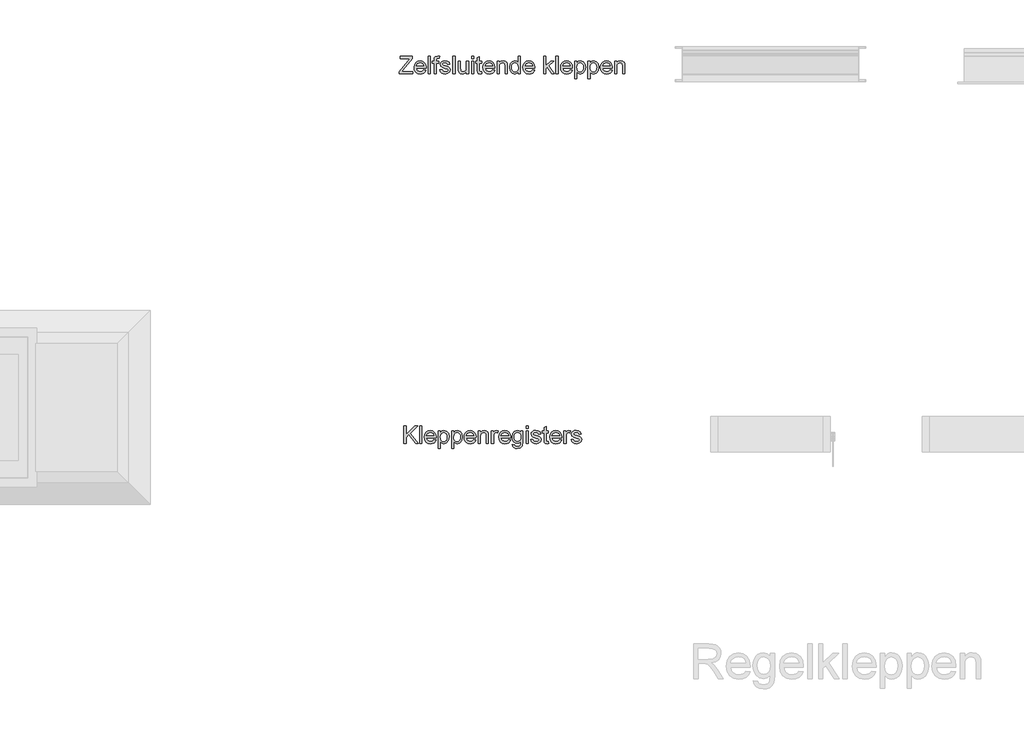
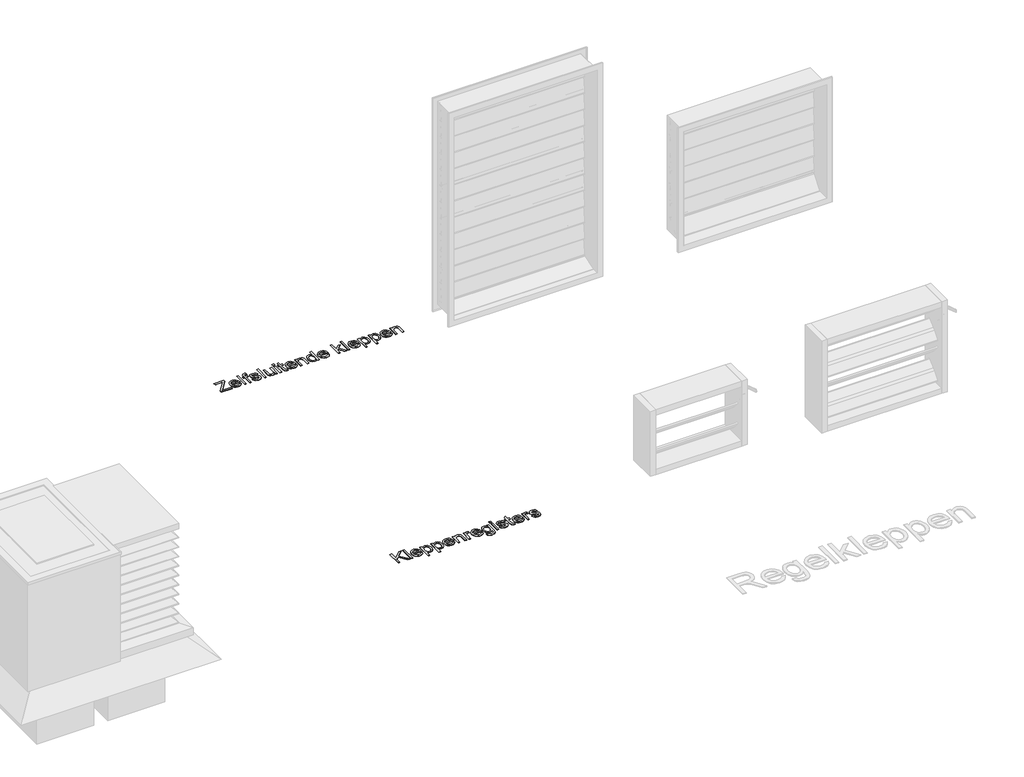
# One storey, part 8 of 10: 2 proxies.
"""IFC4 building model written with IfcOpenShell, lengths in millimetres."""

from ifc_helpers import new_model, si_unit, origin, origin_with_axes, place, context, project, spatial, polyline, outline, extrude, element, save

model = new_model("IFC4")

# Units and contexts
model_context = context("Model", 3, world=origin())
ifc_project = project(units=[si_unit("LENGTHUNIT", "METRE", prefix="MILLI")], contexts=[model_context])

# Site, building, storey
site = spatial("IfcSite", under=ifc_project)
building = spatial("IfcBuilding", under=site)
storey = spatial("IfcBuildingStorey", under=building, Name="Ventilatieroosters", Elevation=0.0)

# Proxies
placement = place(None, origin())
element("IfcBuildingElementProxy", 1, Name="100mm", ObjectType="100mm", at=placement, inside=storey, context=model_context, shape_type="SweptSolid", body=[
    extrude(outline(polyline([(10431.258602, -15084.0867652), (10431.258602, -14985.6252268), (10443.5662943, -14985.6252268), (10443.5662943, -15033.8223421), (10494.0470635, -14985.6252268), (10511.258602, -14985.6252268), (10468.8787943, -15026.105996), (10512.7970635, -15084.0867652), (10497.7489866, -15084.0867652), (10460.1528328, -15034.4233037), (10443.5662943, -15050.2406114), (10443.5662943, -15084.0867652), (10431.258602, -15084.0867652)])), origin_with_axes(), (0.0, 0.0, 1.0), 2.0),
    extrude(outline(polyline([(10520.4893712, -15084.0867652), (10520.4893712, -14985.6252268), (10532.7970635, -14985.6252268), (10532.7970635, -15084.0867652), (10520.4893712, -15084.0867652)])), origin_with_axes(), (0.0, 0.0, 1.0), 2.0),
    extrude(outline(polyline([(10601.883602, -15062.5483037), (10613.9509097, -15064.0867652), (10609.6029529, -15073.1793133), (10602.664852, -15079.9761883), (10593.2928568, -15084.2129671), (10581.6432174, -15085.6252268), (10567.2021116, -15083.1883277), (10556.0903328, -15075.8776306), (10549.0049962, -15064.167895), (10546.6432174, -15048.5338806), (10549.0290347, -15032.3740248), (10556.1864866, -15020.2886883), (10567.1480251, -15012.7526306), (10580.946102, -15010.2406114), (10594.3144914, -15012.746621), (10604.9965828, -15020.2646498), (10612.0007895, -15032.3259479), (10614.3355251, -15048.4617652), (10614.2634097, -15051.7790729), (10558.9509097, -15051.7790729), (10561.0813183, -15060.9918133), (10566.0302366, -15067.7646498), (10581.883602, -15073.3175344), (10593.9509097, -15070.7454191), (10601.883602, -15062.5483037)]), holes=[polyline([(10558.9509097, -15039.4713806), (10602.0278328, -15039.4713806), (10597.0999481, -15028.3175344), (10589.9244674, -15023.9906114), (10580.8980251, -15022.5483037), (10565.7417751, -15027.1516691), (10558.9509097, -15039.4713806)])]), origin_with_axes(), (0.0, 0.0, 1.0), 2.0),
    extrude(outline(polyline([(10626.6432174, -15111.7790729), (10626.6432174, -15011.7790729), (10638.9509097, -15011.7790729), (10638.9509097, -15023.8463806), (10647.4605251, -15013.6420537), (10658.9509097, -15010.2406114), (10674.5518712, -15015.0002268), (10684.7441789, -15028.4136883), (10688.1816789, -15047.3800344), (10684.2994674, -15067.3199383), (10673.0254289, -15080.9016691), (10657.4605251, -15085.6252268), (10646.7513904, -15082.4641691), (10638.9509097, -15074.4713806), (10638.9509097, -15111.7790729), (10626.6432174, -15111.7790729)]), holes=[polyline([(10638.9509097, -15048.5098421), (10640.2820395, -15059.543496), (10644.2754289, -15067.2598421), (10650.1678568, -15071.8031114), (10657.196102, -15073.3175344), (10664.3385299, -15071.7490248), (10670.3811981, -15067.043496), (10674.5007895, -15059.0446979), (10675.8739866, -15047.5963806), (10674.5338424, -15036.6228229), (10670.5134097, -15028.7983037), (10664.6299962, -15024.1108037), (10657.7009097, -15022.5483037), (10650.7447799, -15024.2099623), (10644.6360058, -15029.1949383), (10640.3721837, -15037.3469816), (10638.9509097, -15048.5098421)])]), origin_with_axes(), (0.0, 0.0, 1.0), 2.0),
    extrude(outline(polyline([(10702.0278328, -15111.7790729), (10702.0278328, -15011.7790729), (10714.3355251, -15011.7790729), (10714.3355251, -15023.8463806), (10722.8451404, -15013.6420537), (10734.3355251, -15010.2406114), (10749.9364866, -15015.0002268), (10760.1287943, -15028.4136883), (10763.5662943, -15047.3800344), (10759.6840828, -15067.3199383), (10748.4100443, -15080.9016691), (10732.8451404, -15085.6252268), (10722.1360058, -15082.4641691), (10714.3355251, -15074.4713806), (10714.3355251, -15111.7790729), (10702.0278328, -15111.7790729)]), holes=[polyline([(10714.3355251, -15048.5098421), (10715.6666549, -15059.543496), (10719.6600443, -15067.2598421), (10725.5524722, -15071.8031114), (10732.5807174, -15073.3175344), (10739.7231453, -15071.7490248), (10745.7658135, -15067.043496), (10749.8854049, -15059.0446979), (10751.258602, -15047.5963806), (10749.9184578, -15036.6228229), (10745.8980251, -15028.7983037), (10740.0146116, -15024.1108037), (10733.0855251, -15022.5483037), (10726.1293953, -15024.2099623), (10720.0206212, -15029.1949383), (10715.7567991, -15037.3469816), (10714.3355251, -15048.5098421)])]), origin_with_axes(), (0.0, 0.0, 1.0), 2.0),
    extrude(outline(polyline([(10828.0374481, -15062.5483037), (10840.1047558, -15064.0867652), (10835.7567991, -15073.1793133), (10828.8186981, -15079.9761883), (10819.4467029, -15084.2129671), (10807.7970635, -15085.6252268), (10793.3559578, -15083.1883277), (10782.2441789, -15075.8776306), (10775.1588424, -15064.167895), (10772.7970635, -15048.5338806), (10775.1828808, -15032.3740248), (10782.3403328, -15020.2886883), (10793.3018712, -15012.7526306), (10807.0999481, -15010.2406114), (10820.4683376, -15012.746621), (10831.1504289, -15020.2646498), (10838.1546356, -15032.3259479), (10840.4893712, -15048.4617652), (10840.4172558, -15051.7790729), (10785.1047558, -15051.7790729), (10787.2351645, -15060.9918133), (10792.1840828, -15067.7646498), (10808.0374481, -15073.3175344), (10820.1047558, -15070.7454191), (10828.0374481, -15062.5483037)]), holes=[polyline([(10785.1047558, -15039.4713806), (10828.1816789, -15039.4713806), (10823.2537943, -15028.3175344), (10816.0783135, -15023.9906114), (10807.0518712, -15022.5483037), (10791.8956212, -15027.1516691), (10785.1047558, -15039.4713806)])]), origin_with_axes(), (0.0, 0.0, 1.0), 2.0),
    extrude(outline(polyline([(10852.7970635, -15084.0867652), (10852.7970635, -15011.7790729), (10865.1047558, -15011.7790729), (10865.1047558, -15021.8752268), (10874.5158135, -15013.1492652), (10887.3643712, -15010.2406114), (10898.9869674, -15012.5843614), (10906.9196597, -15018.7382075), (10910.6095635, -15027.7886883), (10911.258602, -15039.6877268), (10911.258602, -15084.0867652), (10898.9509097, -15084.0867652), (10898.9509097, -15041.3463806), (10897.5326404, -15030.4569575), (10892.5206212, -15024.699746), (10884.071102, -15022.5483037), (10870.7177366, -15027.3800344), (10866.508001, -15034.3812364), (10865.1047558, -15045.7213806), (10865.1047558, -15084.0867652), (10852.7970635, -15084.0867652)])), origin_with_axes(), (0.0, 0.0, 1.0), 2.0),
    extrude(outline(polyline([(10928.1816789, -15084.0867652), (10928.1816789, -15011.7790729), (10938.9509097, -15011.7790729), (10938.9509097, -15022.4761883), (10946.5951404, -15012.6204191), (10954.2874481, -15010.2406114), (10966.6432174, -15014.0386883), (10962.5326404, -15025.0723421), (10953.8787943, -15022.5483037), (10946.9196597, -15024.9761883), (10942.4845635, -15031.7069575), (10940.4893712, -15046.0819575), (10940.4893712, -15084.0867652), (10928.1816789, -15084.0867652)])), origin_with_axes(), (0.0, 0.0, 1.0), 2.0),
    extrude(outline(polyline([(11024.9605251, -15062.5483037), (11037.0278328, -15064.0867652), (11032.679876, -15073.1793133), (11025.7417751, -15079.9761883), (11016.3697799, -15084.2129671), (11004.7201404, -15085.6252268), (10990.2790347, -15083.1883277), (10979.1672558, -15075.8776306), (10972.0819193, -15064.167895), (10969.7201404, -15048.5338806), (10972.1059578, -15032.3740248), (10979.2634097, -15020.2886883), (10990.2249481, -15012.7526306), (11004.0230251, -15010.2406114), (11017.3914145, -15012.746621), (11028.0735058, -15020.2646498), (11035.0777126, -15032.3259479), (11037.4124481, -15048.4617652), (11037.3403328, -15051.7790729), (10982.0278328, -15051.7790729), (10984.1582414, -15060.9918133), (10989.1071597, -15067.7646498), (11004.9605251, -15073.3175344), (11017.0278328, -15070.7454191), (11024.9605251, -15062.5483037)]), holes=[polyline([(10982.0278328, -15039.4713806), (11025.1047558, -15039.4713806), (11020.1768712, -15028.3175344), (11013.0013904, -15023.9906114), (11003.9749481, -15022.5483037), (10988.8186981, -15027.1516691), (10982.0278328, -15039.4713806)])]), origin_with_axes(), (0.0, 0.0, 1.0), 2.0),
    extrude(outline(polyline([(11046.6432174, -15090.2406114), (11058.9509097, -15091.7790729), (11062.9412943, -15098.2694575), (11074.8884097, -15101.0098421), (11087.4845635, -15097.9088806), (11093.4941789, -15089.2069575), (11094.3355251, -15074.855996), (11085.6696597, -15081.7790729), (11075.1047558, -15084.0867652), (11062.4154529, -15081.4004671), (11052.9533135, -15073.3415729), (11047.0668953, -15061.5266691), (11045.1047558, -15047.5723421), (11048.6263904, -15028.4978229), (11058.8186981, -15015.0002268), (11074.5037943, -15010.2406114), (11085.4833616, -15012.9329191), (11094.3355251, -15021.0098421), (11094.3355251, -15011.7790729), (11106.6432174, -15011.7790729), (11106.6432174, -15074.2069575), (11103.2778328, -15098.1132075), (11092.6167751, -15109.230996), (11074.6480251, -15113.3175344), (11063.1967029, -15111.8782316), (11054.1792751, -15107.5603229), (11048.3950203, -15100.3517893), (11046.6432174, -15090.2406114)]), holes=[polyline([(11057.4124481, -15046.730996), (11058.7255491, -15058.0200585), (11062.664852, -15065.7814768), (11068.5873279, -15070.2796739), (11075.8499481, -15071.7790729), (11083.0584818, -15070.2886883), (11089.0110058, -15065.8175344), (11093.0043953, -15058.1552748), (11094.3355251, -15047.0915729), (11092.9653328, -15036.4215008), (11088.8547558, -15028.7382075), (11082.8150924, -15024.0957796), (11075.6576404, -15022.5483037), (11068.6293953, -15024.0717412), (11062.7369674, -15028.6420537), (11058.7435779, -15036.2111643), (11057.4124481, -15046.730996)])]), origin_with_axes(), (0.0, 0.0, 1.0), 2.0),
    extrude(outline(polyline([(11125.1047558, -15084.0867652), (11125.1047558, -15011.7790729), (11137.4124481, -15011.7790729), (11137.4124481, -15084.0867652), (11125.1047558, -15084.0867652)])), origin_with_axes(), (0.0, 0.0, 1.0), 2.0),
    extrude(outline(polyline([(11125.1047558, -14997.9329191), (11125.1047558, -14985.6252268), (11137.4124481, -14985.6252268), (11137.4124481, -14997.9329191), (11125.1047558, -14997.9329191)])), origin_with_axes(), (0.0, 0.0, 1.0), 2.0),
    extrude(outline(polyline([(11151.258602, -15062.5483037), (11163.5662943, -15061.0098421), (11169.2634097, -15070.1444575), (11182.3162943, -15073.3175344), (11194.8643712, -15070.4088806), (11198.9509097, -15063.5819575), (11194.8403328, -15058.0531114), (11182.1720635, -15054.543496), (11163.6384097, -15048.5218614), (11155.5494674, -15041.4906114), (11152.7970635, -15031.5627268), (11155.008602, -15022.3920537), (11161.0422558, -15015.3848421), (11168.8667751, -15011.7430152), (11179.4557174, -15010.2406114), (11194.4316789, -15012.6564768), (11203.9509097, -15019.1949383), (11208.1816789, -15030.2406114), (11195.8739866, -15031.7790729), (11191.2465828, -15024.9882075), (11180.4172558, -15022.5483037), (11168.6384097, -15024.8800344), (11165.1047558, -15030.3127268), (11166.571102, -15033.8944575), (11171.1624481, -15036.6108037), (11181.7634097, -15039.230996), (11199.8283135, -15045.0242652), (11208.2177366, -15051.5867652), (11211.258602, -15062.2838806), (11207.6888904, -15074.0627268), (11197.3884097, -15082.6083998), (11182.1480251, -15085.6252268), (11169.7381693, -15084.1708998), (11160.6816789, -15079.8079191), (11154.6360058, -15072.5843614), (11151.258602, -15062.5483037)])), origin_with_axes(), (0.0, 0.0, 1.0), 2.0),
    extrude(outline(polyline([(11251.258602, -15073.8223421), (11252.7970635, -15084.4473421), (11243.5903328, -15085.6252268), (11233.2778328, -15083.5819575), (11228.133602, -15078.2213806), (11226.6432174, -15064.2550344), (11226.6432174, -15024.0867652), (11217.4124481, -15024.0867652), (11217.4124481, -15011.7790729), (11226.6432174, -15011.7790729), (11226.6432174, -14994.2069575), (11238.9509097, -14986.9713806), (11238.9509097, -15011.7790729), (11251.258602, -15011.7790729), (11251.258602, -15024.0867652), (11238.9509097, -15024.0867652), (11238.9509097, -15063.8944575), (11239.5999481, -15070.2406114), (11241.7033135, -15072.4882075), (11245.8980251, -15073.3175344), (11251.258602, -15073.8223421)])), origin_with_axes(), (0.0, 0.0, 1.0), 2.0),
    extrude(outline(polyline([(11314.1912943, -15062.5483037), (11326.258602, -15064.0867652), (11321.9106453, -15073.1793133), (11314.9725443, -15079.9761883), (11305.6005491, -15084.2129671), (11293.9509097, -15085.6252268), (11279.5098039, -15083.1883277), (11268.3980251, -15075.8776306), (11261.3126885, -15064.167895), (11258.9509097, -15048.5338806), (11261.336727, -15032.3740248), (11268.4941789, -15020.2886883), (11279.4557174, -15012.7526306), (11293.2537943, -15010.2406114), (11306.6221837, -15012.746621), (11317.3042751, -15020.2646498), (11324.3084818, -15032.3259479), (11326.6432174, -15048.4617652), (11326.571102, -15051.7790729), (11271.258602, -15051.7790729), (11273.3890106, -15060.9918133), (11278.3379289, -15067.7646498), (11294.1912943, -15073.3175344), (11306.258602, -15070.7454191), (11314.1912943, -15062.5483037)]), holes=[polyline([(11271.258602, -15039.4713806), (11314.3355251, -15039.4713806), (11309.4076404, -15028.3175344), (11302.2321597, -15023.9906114), (11293.2057174, -15022.5483037), (11278.0494674, -15027.1516691), (11271.258602, -15039.4713806)])]), origin_with_axes(), (0.0, 0.0, 1.0), 2.0),
    extrude(outline(polyline([(11338.9509097, -15084.0867652), (11338.9509097, -15011.7790729), (11349.7201404, -15011.7790729), (11349.7201404, -15022.4761883), (11357.3643712, -15012.6204191), (11365.0566789, -15010.2406114), (11377.4124481, -15014.0386883), (11373.3018712, -15025.0723421), (11364.6480251, -15022.5483037), (11357.6888904, -15024.9761883), (11353.2537943, -15031.7069575), (11351.258602, -15046.0819575), (11351.258602, -15084.0867652), (11338.9509097, -15084.0867652)])), origin_with_axes(), (0.0, 0.0, 1.0), 2.0),
    extrude(outline(polyline([(11380.4893712, -15062.5483037), (11392.7970635, -15061.0098421), (11398.4941789, -15070.1444575), (11411.5470635, -15073.3175344), (11424.0951404, -15070.4088806), (11428.1816789, -15063.5819575), (11424.071102, -15058.0531114), (11411.4028328, -15054.543496), (11392.8691789, -15048.5218614), (11384.7802366, -15041.4906114), (11382.0278328, -15031.5627268), (11384.2393712, -15022.3920537), (11390.2730251, -15015.3848421), (11398.0975443, -15011.7430152), (11408.6864866, -15010.2406114), (11423.6624481, -15012.6564768), (11433.1816789, -15019.1949383), (11437.4124481, -15030.2406114), (11425.1047558, -15031.7790729), (11420.477352, -15024.9882075), (11409.6480251, -15022.5483037), (11397.8691789, -15024.8800344), (11394.3355251, -15030.3127268), (11395.8018712, -15033.8944575), (11400.3932174, -15036.6108037), (11410.9941789, -15039.230996), (11429.0590828, -15045.0242652), (11437.4485058, -15051.5867652), (11440.4893712, -15062.2838806), (11436.9196597, -15074.0627268), (11426.6191789, -15082.6083998), (11411.3787943, -15085.6252268), (11398.9689385, -15084.1708998), (11389.9124481, -15079.8079191), (11383.8667751, -15072.5843614), (11380.4893712, -15062.5483037)])), origin_with_axes(), (0.0, 0.0, 1.0), 2.0),
])
element("IfcBuildingElementProxy", 2, Name="100mm", ObjectType="100mm", at=placement, inside=storey, context=model_context, shape_type="SweptSolid", body=[
    extrude(outline(polyline([(10404.6603337, -12985.5251354), (10404.6603337, -12972.7607123), (10455.0209106, -12911.1020585), (10464.5882183, -12899.3712892), (10410.8141798, -12899.3712892), (10410.8141798, -12887.0635969), (10480.044949, -12887.0635969), (10480.044949, -12899.3712892), (10424.9247567, -12966.8472508), (10419.732449, -12973.2174431), (10481.5834106, -12973.2174431), (10481.5834106, -12985.5251354), (10404.6603337, -12985.5251354)])), origin_with_axes(), (0.0, 0.0, 1.0), 2.0),
    extrude(outline(polyline([(10544.5161029, -12963.9866739), (10556.5834106, -12965.5251354), (10552.2354539, -12974.6176835), (10545.2973529, -12981.4145585), (10535.9253577, -12985.6513373), (10524.2757183, -12987.0635969), (10509.8346125, -12984.6266979), (10498.7228337, -12977.3160008), (10491.6374971, -12965.6062652), (10489.2757183, -12949.9722508), (10491.6615356, -12933.812395), (10498.8189875, -12921.7270585), (10509.780526, -12914.1910008), (10523.5786029, -12911.6789815), (10536.9469923, -12914.1849912), (10547.6290837, -12921.70302), (10554.6332904, -12933.7643181), (10556.968026, -12949.9001354), (10556.8959106, -12953.2174431), (10501.5834106, -12953.2174431), (10503.7138192, -12962.4301835), (10508.6627375, -12969.20302), (10524.5161029, -12974.7559046), (10536.5834106, -12972.1837892), (10544.5161029, -12963.9866739)]), holes=[polyline([(10501.5834106, -12940.9097508), (10544.6603337, -12940.9097508), (10539.732449, -12929.7559046), (10532.5569683, -12925.4289815), (10523.530526, -12923.9866739), (10508.374276, -12928.5900392), (10501.5834106, -12940.9097508)])]), origin_with_axes(), (0.0, 0.0, 1.0), 2.0),
    extrude(outline(polyline([(10569.2757183, -12985.5251354), (10569.2757183, -12887.0635969), (10581.5834106, -12887.0635969), (10581.5834106, -12985.5251354), (10569.2757183, -12985.5251354)])), origin_with_axes(), (0.0, 0.0, 1.0), 2.0),
    extrude(outline(polyline([(10603.1218721, -12985.5251354), (10603.1218721, -12925.5251354), (10592.3526414, -12925.5251354), (10592.3526414, -12913.2174431), (10603.1218721, -12913.2174431), (10603.1218721, -12905.9337892), (10604.419949, -12895.6693662), (10610.718026, -12888.3376354), (10623.1218721, -12885.5251354), (10634.3478337, -12886.8712892), (10632.544949, -12898.4097508), (10625.4536029, -12897.8328277), (10617.701199, -12899.8760969), (10615.4295644, -12907.4962892), (10615.4295644, -12913.2174431), (10629.2757183, -12913.2174431), (10629.2757183, -12925.5251354), (10615.4295644, -12925.5251354), (10615.4295644, -12985.5251354), (10603.1218721, -12985.5251354)])), origin_with_axes(), (0.0, 0.0, 1.0), 2.0),
    extrude(outline(polyline([(10635.4295644, -12963.9866739), (10647.7372567, -12962.4482123), (10653.4343721, -12971.5828277), (10666.4872567, -12974.7559046), (10679.0353337, -12971.8472508), (10683.1218721, -12965.0203277), (10679.0112952, -12959.4914815), (10666.343026, -12955.9818662), (10647.8093721, -12949.9602315), (10639.7204298, -12942.9289815), (10636.968026, -12933.0010969), (10639.1795644, -12923.8304239), (10645.2132183, -12916.8232123), (10653.0377375, -12913.1813854), (10663.6266798, -12911.6789815), (10678.6026414, -12914.0948469), (10688.1218721, -12920.6333085), (10692.3526414, -12931.6789815), (10680.044949, -12933.2174431), (10675.4175452, -12926.4265777), (10664.5882183, -12923.9866739), (10652.8093721, -12926.3184046), (10649.2757183, -12931.7510969), (10650.7420644, -12935.3328277), (10655.3334106, -12938.0491739), (10665.9343721, -12940.6693662), (10683.999276, -12946.4626354), (10692.388699, -12953.0251354), (10695.4295644, -12963.7222508), (10691.8598529, -12975.5010969), (10681.5593721, -12984.04677), (10666.3189875, -12987.0635969), (10653.9091317, -12985.60927), (10644.8526414, -12981.2462892), (10638.8069683, -12974.0227315), (10635.4295644, -12963.9866739)])), origin_with_axes(), (0.0, 0.0, 1.0), 2.0),
    extrude(outline(polyline([(10709.2757183, -12985.5251354), (10709.2757183, -12887.0635969), (10721.5834106, -12887.0635969), (10721.5834106, -12985.5251354), (10709.2757183, -12985.5251354)])), origin_with_axes(), (0.0, 0.0, 1.0), 2.0),
    extrude(outline(polyline([(10786.1987952, -12985.5251354), (10786.1987952, -12973.0972508), (10776.5593721, -12983.5720104), (10763.9872567, -12987.0635969), (10752.4127375, -12984.6116739), (10744.4319683, -12978.4578277), (10740.7661029, -12969.3953277), (10740.044949, -12957.95302), (10740.044949, -12913.2174431), (10752.3526414, -12913.2174431), (10752.3526414, -12952.1597508), (10753.0978337, -12964.7078277), (10757.9656221, -12972.0756162), (10767.1362952, -12974.7559046), (10777.4127375, -12972.01552), (10784.2036029, -12964.5515777), (10786.1987952, -12950.8376354), (10786.1987952, -12913.2174431), (10798.5064875, -12913.2174431), (10798.5064875, -12985.5251354), (10786.1987952, -12985.5251354)])), origin_with_axes(), (0.0, 0.0, 1.0), 2.0),
    extrude(outline(polyline([(10815.4295644, -12985.5251354), (10815.4295644, -12913.2174431), (10827.7372567, -12913.2174431), (10827.7372567, -12985.5251354), (10815.4295644, -12985.5251354)])), origin_with_axes(), (0.0, 0.0, 1.0), 2.0),
    extrude(outline(polyline([(10815.4295644, -12899.3712892), (10815.4295644, -12887.0635969), (10827.7372567, -12887.0635969), (10827.7372567, -12899.3712892), (10815.4295644, -12899.3712892)])), origin_with_axes(), (0.0, 0.0, 1.0), 2.0),
    extrude(outline(polyline([(10872.3526414, -12975.2607123), (10873.8911029, -12985.8857123), (10864.6843721, -12987.0635969), (10854.3718721, -12985.0203277), (10849.2276414, -12979.6597508), (10847.7372567, -12965.6934046), (10847.7372567, -12925.5251354), (10838.5064875, -12925.5251354), (10838.5064875, -12913.2174431), (10847.7372567, -12913.2174431), (10847.7372567, -12895.6453277), (10860.044949, -12888.4097508), (10860.044949, -12913.2174431), (10872.3526414, -12913.2174431), (10872.3526414, -12925.5251354), (10860.044949, -12925.5251354), (10860.044949, -12965.3328277), (10860.6939875, -12971.6789815), (10862.7973529, -12973.9265777), (10866.9920644, -12974.7559046), (10872.3526414, -12975.2607123)])), origin_with_axes(), (0.0, 0.0, 1.0), 2.0),
    extrude(outline(polyline([(10935.2853337, -12963.9866739), (10947.3526414, -12965.5251354), (10943.0046846, -12974.6176835), (10936.0665837, -12981.4145585), (10926.6945885, -12985.6513373), (10915.044949, -12987.0635969), (10900.6038433, -12984.6266979), (10889.4920644, -12977.3160008), (10882.4067279, -12965.6062652), (10880.044949, -12949.9722508), (10882.4307664, -12933.812395), (10889.5882183, -12921.7270585), (10900.5497567, -12914.1910008), (10914.3478337, -12911.6789815), (10927.7162231, -12914.1849912), (10938.3983144, -12921.70302), (10945.4025212, -12933.7643181), (10947.7372567, -12949.9001354), (10947.6651414, -12953.2174431), (10892.3526414, -12953.2174431), (10894.48305, -12962.4301835), (10899.4319683, -12969.20302), (10915.2853337, -12974.7559046), (10927.3526414, -12972.1837892), (10935.2853337, -12963.9866739)]), holes=[polyline([(10892.3526414, -12940.9097508), (10935.4295644, -12940.9097508), (10930.5016798, -12929.7559046), (10923.326199, -12925.4289815), (10914.2997567, -12923.9866739), (10899.1435067, -12928.5900392), (10892.3526414, -12940.9097508)])]), origin_with_axes(), (0.0, 0.0, 1.0), 2.0),
    extrude(outline(polyline([(10960.044949, -12985.5251354), (10960.044949, -12913.2174431), (10972.3526414, -12913.2174431), (10972.3526414, -12923.3135969), (10981.763699, -12914.5876354), (10994.6122567, -12911.6789815), (11006.2348529, -12914.0227315), (11014.1675452, -12920.1765777), (11017.857449, -12929.2270585), (11018.5064875, -12941.1260969), (11018.5064875, -12985.5251354), (11006.1987952, -12985.5251354), (11006.1987952, -12942.7847508), (11004.780526, -12931.8953277), (10999.7685067, -12926.1381162), (10991.3189875, -12923.9866739), (10977.9656221, -12928.8184046), (10973.7558865, -12935.8196065), (10972.3526414, -12947.1597508), (10972.3526414, -12985.5251354), (10960.044949, -12985.5251354)])), origin_with_axes(), (0.0, 0.0, 1.0), 2.0),
    extrude(outline(polyline([(11080.044949, -12985.5251354), (11080.044949, -12973.9145585), (11071.9019202, -12983.7763373), (11060.6459106, -12987.0635969), (11045.405526, -12982.3039815), (11034.6362952, -12969.0227315), (11030.8141798, -12949.4434046), (11034.3358144, -12929.8520585), (11044.888699, -12916.3664815), (11060.5978337, -12911.6789815), (11071.9439875, -12915.0323469), (11080.044949, -12923.7462892), (11080.044949, -12887.0635969), (11092.3526414, -12887.0635969), (11092.3526414, -12985.5251354), (11080.044949, -12985.5251354)]), holes=[polyline([(11043.1218721, -12949.3953277), (11044.5100933, -12960.5281402), (11048.6747567, -12968.4458085), (11054.7264394, -12973.1783806), (11061.7757183, -12974.7559046), (11068.8219923, -12973.250496), (11074.7204298, -12968.73427), (11078.7138192, -12961.1230921), (11080.044949, -12950.3328277), (11078.6897808, -12938.5359527), (11074.624276, -12930.3568662), (11068.5755981, -12925.5792219), (11061.2709106, -12923.9866739), (11054.1495164, -12925.516121), (11048.3141798, -12930.1044623), (11044.419949, -12937.9860729), (11043.1218721, -12949.3953277)])]), origin_with_axes(), (0.0, 0.0, 1.0), 2.0),
    extrude(outline(polyline([(11161.4391798, -12963.9866739), (11173.5064875, -12965.5251354), (11169.1585308, -12974.6176835), (11162.2204298, -12981.4145585), (11152.8484346, -12985.6513373), (11141.1987952, -12987.0635969), (11126.7576894, -12984.6266979), (11115.6459106, -12977.3160008), (11108.560574, -12965.6062652), (11106.1987952, -12949.9722508), (11108.5846125, -12933.812395), (11115.7420644, -12921.7270585), (11126.7036029, -12914.1910008), (11140.5016798, -12911.6789815), (11153.8700692, -12914.1849912), (11164.5521606, -12921.70302), (11171.5563673, -12933.7643181), (11173.8911029, -12949.9001354), (11173.8189875, -12953.2174431), (11118.5064875, -12953.2174431), (11120.6368962, -12962.4301835), (11125.5858144, -12969.20302), (11141.4391798, -12974.7559046), (11153.5064875, -12972.1837892), (11161.4391798, -12963.9866739)]), holes=[polyline([(11118.5064875, -12940.9097508), (11161.5834106, -12940.9097508), (11156.655526, -12929.7559046), (11149.4800452, -12925.4289815), (11140.4536029, -12923.9866739), (11125.2973529, -12928.5900392), (11118.5064875, -12940.9097508)])]), origin_with_axes(), (0.0, 0.0, 1.0), 2.0),
    extrude(outline(polyline([(11224.6603337, -12985.5251354), (11224.6603337, -12887.0635969), (11236.968026, -12887.0635969), (11236.968026, -12939.9722508), (11264.5641798, -12913.2174431), (11281.5834106, -12913.2174431), (11253.6507183, -12940.3087892), (11283.1218721, -12985.5251354), (11268.7468721, -12985.5251354), (11244.8286029, -12948.8664815), (11236.968026, -12956.4866739), (11236.968026, -12985.5251354), (11224.6603337, -12985.5251354)])), origin_with_axes(), (0.0, 0.0, 1.0), 2.0),
    extrude(outline(polyline([(11293.8911029, -12985.5251354), (11293.8911029, -12887.0635969), (11306.1987952, -12887.0635969), (11306.1987952, -12985.5251354), (11293.8911029, -12985.5251354)])), origin_with_axes(), (0.0, 0.0, 1.0), 2.0),
    extrude(outline(polyline([(11375.2853337, -12963.9866739), (11387.3526414, -12965.5251354), (11383.0046846, -12974.6176835), (11376.0665837, -12981.4145585), (11366.6945885, -12985.6513373), (11355.044949, -12987.0635969), (11340.6038433, -12984.6266979), (11329.4920644, -12977.3160008), (11322.4067279, -12965.6062652), (11320.044949, -12949.9722508), (11322.4307664, -12933.812395), (11329.5882183, -12921.7270585), (11340.5497567, -12914.1910008), (11354.3478337, -12911.6789815), (11367.7162231, -12914.1849912), (11378.3983144, -12921.70302), (11385.4025212, -12933.7643181), (11387.7372567, -12949.9001354), (11387.6651414, -12953.2174431), (11332.3526414, -12953.2174431), (11334.48305, -12962.4301835), (11339.4319683, -12969.20302), (11355.2853337, -12974.7559046), (11367.3526414, -12972.1837892), (11375.2853337, -12963.9866739)]), holes=[polyline([(11332.3526414, -12940.9097508), (11375.4295644, -12940.9097508), (11370.5016798, -12929.7559046), (11363.326199, -12925.4289815), (11354.2997567, -12923.9866739), (11339.1435067, -12928.5900392), (11332.3526414, -12940.9097508)])]), origin_with_axes(), (0.0, 0.0, 1.0), 2.0),
    extrude(outline(polyline([(11400.044949, -13013.2174431), (11400.044949, -12913.2174431), (11412.3526414, -12913.2174431), (11412.3526414, -12925.2847508), (11420.8622567, -12915.0804239), (11432.3526414, -12911.6789815), (11447.9536029, -12916.4385969), (11458.1459106, -12929.8520585), (11461.5834106, -12948.8184046), (11457.701199, -12968.7583085), (11446.4271606, -12982.3400392), (11430.8622567, -12987.0635969), (11420.1531221, -12983.9025392), (11412.3526414, -12975.9097508), (11412.3526414, -13013.2174431), (11400.044949, -13013.2174431)]), holes=[polyline([(11412.3526414, -12949.9482123), (11413.6837712, -12960.9818662), (11417.6771606, -12968.6982123), (11423.5695885, -12973.2414815), (11430.5978337, -12974.7559046), (11437.7402615, -12973.187395), (11443.7829298, -12968.4818662), (11447.9025212, -12960.4830681), (11449.2757183, -12949.0347508), (11447.935574, -12938.0611931), (11443.9151414, -12930.2366739), (11438.0317279, -12925.5491739), (11431.1026414, -12923.9866739), (11424.1465115, -12925.6483325), (11418.0377375, -12930.6333085), (11413.7739154, -12938.7853517), (11412.3526414, -12949.9482123)])]), origin_with_axes(), (0.0, 0.0, 1.0), 2.0),
    extrude(outline(polyline([(11475.4295644, -13013.2174431), (11475.4295644, -12913.2174431), (11487.7372567, -12913.2174431), (11487.7372567, -12925.2847508), (11496.2468721, -12915.0804239), (11507.7372567, -12911.6789815), (11523.3382183, -12916.4385969), (11533.530526, -12929.8520585), (11536.968026, -12948.8184046), (11533.0858144, -12968.7583085), (11521.811776, -12982.3400392), (11506.2468721, -12987.0635969), (11495.5377375, -12983.9025392), (11487.7372567, -12975.9097508), (11487.7372567, -13013.2174431), (11475.4295644, -13013.2174431)]), holes=[polyline([(11487.7372567, -12949.9482123), (11489.0683865, -12960.9818662), (11493.061776, -12968.6982123), (11498.9542039, -12973.2414815), (11505.982449, -12974.7559046), (11513.1248769, -12973.187395), (11519.1675452, -12968.4818662), (11523.2871365, -12960.4830681), (11524.6603337, -12949.0347508), (11523.3201894, -12938.0611931), (11519.2997567, -12930.2366739), (11513.4163433, -12925.5491739), (11506.4872567, -12923.9866739), (11499.5311269, -12925.6483325), (11493.4223529, -12930.6333085), (11489.1585308, -12938.7853517), (11487.7372567, -12949.9482123)])]), origin_with_axes(), (0.0, 0.0, 1.0), 2.0),
    extrude(outline(polyline([(11601.4391798, -12963.9866739), (11613.5064875, -12965.5251354), (11609.1585308, -12974.6176835), (11602.2204298, -12981.4145585), (11592.8484346, -12985.6513373), (11581.1987952, -12987.0635969), (11566.7576894, -12984.6266979), (11555.6459106, -12977.3160008), (11548.560574, -12965.6062652), (11546.1987952, -12949.9722508), (11548.5846125, -12933.812395), (11555.7420644, -12921.7270585), (11566.7036029, -12914.1910008), (11580.5016798, -12911.6789815), (11593.8700692, -12914.1849912), (11604.5521606, -12921.70302), (11611.5563673, -12933.7643181), (11613.8911029, -12949.9001354), (11613.8189875, -12953.2174431), (11558.5064875, -12953.2174431), (11560.6368962, -12962.4301835), (11565.5858144, -12969.20302), (11581.4391798, -12974.7559046), (11593.5064875, -12972.1837892), (11601.4391798, -12963.9866739)]), holes=[polyline([(11558.5064875, -12940.9097508), (11601.5834106, -12940.9097508), (11596.655526, -12929.7559046), (11589.4800452, -12925.4289815), (11580.4536029, -12923.9866739), (11565.2973529, -12928.5900392), (11558.5064875, -12940.9097508)])]), origin_with_axes(), (0.0, 0.0, 1.0), 2.0),
    extrude(outline(polyline([(11626.1987952, -12985.5251354), (11626.1987952, -12913.2174431), (11638.5064875, -12913.2174431), (11638.5064875, -12923.3135969), (11647.9175452, -12914.5876354), (11660.7661029, -12911.6789815), (11672.388699, -12914.0227315), (11680.3213914, -12920.1765777), (11684.0112952, -12929.2270585), (11684.6603337, -12941.1260969), (11684.6603337, -12985.5251354), (11672.3526414, -12985.5251354), (11672.3526414, -12942.7847508), (11670.9343721, -12931.8953277), (11665.9223529, -12926.1381162), (11657.4728337, -12923.9866739), (11644.1194683, -12928.8184046), (11639.9097327, -12935.8196065), (11638.5064875, -12947.1597508), (11638.5064875, -12985.5251354), (11626.1987952, -12985.5251354)])), origin_with_axes(), (0.0, 0.0, 1.0), 2.0),
])

save(model, "model.ifc")
